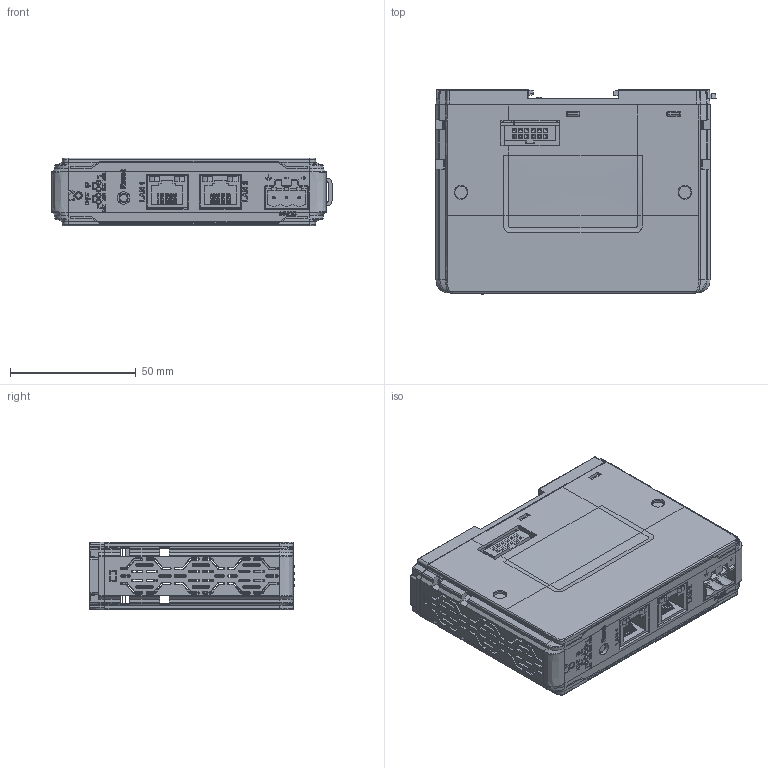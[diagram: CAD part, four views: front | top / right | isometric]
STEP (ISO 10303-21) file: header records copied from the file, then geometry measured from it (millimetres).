
FILE_DESCRIPTION (( 'STEP AP214' ), '1' );
FILE_NAME ('iR-ETN.STEP', '2020-09-10T19:14:52', ( '' ), ( '' ), 'SwSTEP 2.0', 'SolidWorks 2019', '' );
FILE_SCHEMA (( 'AUTOMOTIVE_DESIGN' ));
Length unit declared in the file: millimetre
Products named in the file (1): iR-ETN
Bounding box: 111.4 x 81.42 x 27 mm (x, y, z)
Surface area: 76068.4 mm2 (no closed solid volume)
Topology: 0 solids, 36 shells, 1696 faces, 6796 edges, 5083 vertices
Faces by surface type: plane 994, cone 373, cylinder 206, bspline 78, torus 39, sphere 6
Entity records: 96775 total; most frequent: CARTESIAN_POINT 24525, ORIENTED_EDGE 10867, DIRECTION 10014, EDGE_CURVE 6782, VERTEX_POINT 5083, LINE 4412, VECTOR 4412, AXIS2_PLACEMENT_3D 2801
